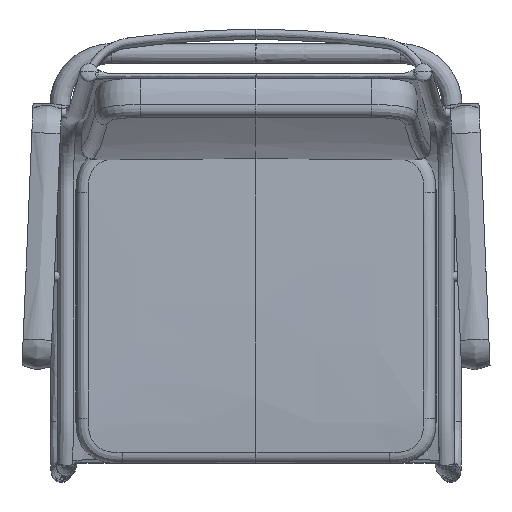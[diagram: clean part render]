
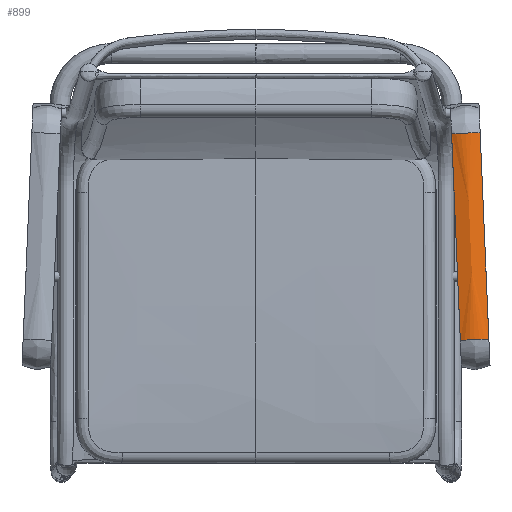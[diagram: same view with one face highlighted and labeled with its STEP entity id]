
A CAD part, top view. The second image highlights one B-rep face of the part: STEP entity #899.
In plain terms, the highlighted free-form (B-spline) face has degree [3, 2] with [4, 3] control points.
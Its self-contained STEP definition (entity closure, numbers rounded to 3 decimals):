
#297=(
BOUNDED_CURVE()
B_SPLINE_CURVE(2,(#12326,#12327,#12328),.UNSPECIFIED.,.F.,.F.)
B_SPLINE_CURVE_WITH_KNOTS((3,3),(0.,37.482),.UNSPECIFIED.)
CURVE()
GEOMETRIC_REPRESENTATION_ITEM()
RATIONAL_B_SPLINE_CURVE((1.,0.882,1.))
REPRESENTATION_ITEM('')
);
#299=(
BOUNDED_CURVE()
B_SPLINE_CURVE(3,(#12340,#12341,#12342,#12343),.UNSPECIFIED.,.F.,.F.)
B_SPLINE_CURVE_WITH_KNOTS((4,4),(0.,260.717),.UNSPECIFIED.)
CURVE()
GEOMETRIC_REPRESENTATION_ITEM()
RATIONAL_B_SPLINE_CURVE((1.,1.,1.,1.))
REPRESENTATION_ITEM('')
);
#300=(
BOUNDED_CURVE()
B_SPLINE_CURVE(2,(#12344,#12345,#12346),.UNSPECIFIED.,.F.,.F.)
B_SPLINE_CURVE_WITH_KNOTS((3,3),(0.,37.482),.UNSPECIFIED.)
CURVE()
GEOMETRIC_REPRESENTATION_ITEM()
RATIONAL_B_SPLINE_CURVE((1.,0.882,1.))
REPRESENTATION_ITEM('')
);
#301=(
BOUNDED_CURVE()
B_SPLINE_CURVE(3,(#12347,#12348,#12349,#12350),.UNSPECIFIED.,.F.,.F.)
B_SPLINE_CURVE_WITH_KNOTS((4,4),(-260.717,0.),.UNSPECIFIED.)
CURVE()
GEOMETRIC_REPRESENTATION_ITEM()
RATIONAL_B_SPLINE_CURVE((1.,1.,1.,1.))
REPRESENTATION_ITEM('')
);
#659=(
BOUNDED_SURFACE()
B_SPLINE_SURFACE(3,2,((#11830,#11831,#11832),(#11833,#11834,#11835),(#11836,
#11837,#11838),(#11839,#11840,#11841)),.UNSPECIFIED.,.F.,.F.,.F.)
B_SPLINE_SURFACE_WITH_KNOTS((4,4),(3,3),(0.,260.717),(0.,37.482),
 .UNSPECIFIED.)
GEOMETRIC_REPRESENTATION_ITEM()
RATIONAL_B_SPLINE_SURFACE(((1.,0.882,1.),(1.,0.882,
1.),(1.,0.882,1.),(1.,0.882,1.)))
REPRESENTATION_ITEM('')
SURFACE()
);
#899=ADVANCED_FACE('',(#1213),#659,.T.);
#1213=FACE_OUTER_BOUND('',#1530,.T.);
#1530=EDGE_LOOP('',(#2227,#2228,#2229,#2230));
#2227=ORIENTED_EDGE('',*,*,#3426,.T.);
#2228=ORIENTED_EDGE('',*,*,#3427,.T.);
#2229=ORIENTED_EDGE('',*,*,#3428,.T.);
#2230=ORIENTED_EDGE('',*,*,#3424,.F.);
#3424=EDGE_CURVE('',#4385,#4386,#297,.T.);
#3426=EDGE_CURVE('',#4385,#4387,#299,.T.);
#3427=EDGE_CURVE('',#4387,#4388,#300,.T.);
#3428=EDGE_CURVE('',#4388,#4386,#301,.T.);
#4385=VERTEX_POINT('',#12098);
#4386=VERTEX_POINT('',#12099);
#4387=VERTEX_POINT('',#12100);
#4388=VERTEX_POINT('',#12101);
#11830=CARTESIAN_POINT('',(293.384,-93.974,659.454));
#11831=CARTESIAN_POINT('',(275.382,-94.317,669.045));
#11832=CARTESIAN_POINT('',(257.416,-95.496,659.454));
#11833=CARTESIAN_POINT('',(289.712,-7.228,655.67));
#11834=CARTESIAN_POINT('',(271.711,-7.572,665.261));
#11835=CARTESIAN_POINT('',(253.744,-8.75,655.67));
#11836=CARTESIAN_POINT('',(286.041,79.518,651.885));
#11837=CARTESIAN_POINT('',(268.039,79.174,661.476));
#11838=CARTESIAN_POINT('',(250.073,77.995,651.885));
#11839=CARTESIAN_POINT('',(282.369,166.263,648.101));
#11840=CARTESIAN_POINT('',(264.367,165.92,657.691));
#11841=CARTESIAN_POINT('',(246.401,164.741,648.101));
#12098=CARTESIAN_POINT('',(293.384,-93.974,659.454));
#12099=CARTESIAN_POINT('',(257.416,-95.496,659.454));
#12100=CARTESIAN_POINT('',(282.369,166.263,648.101));
#12101=CARTESIAN_POINT('',(246.401,164.741,648.101));
#12326=CARTESIAN_POINT('',(293.384,-93.974,659.454));
#12327=CARTESIAN_POINT('',(275.382,-94.317,669.045));
#12328=CARTESIAN_POINT('',(257.416,-95.496,659.454));
#12340=CARTESIAN_POINT('',(293.384,-93.974,659.454));
#12341=CARTESIAN_POINT('',(289.712,-7.228,655.67));
#12342=CARTESIAN_POINT('',(286.041,79.518,651.885));
#12343=CARTESIAN_POINT('',(282.369,166.263,648.101));
#12344=CARTESIAN_POINT('',(282.369,166.263,648.101));
#12345=CARTESIAN_POINT('',(264.367,165.92,657.691));
#12346=CARTESIAN_POINT('',(246.401,164.741,648.101));
#12347=CARTESIAN_POINT('',(246.401,164.741,648.101));
#12348=CARTESIAN_POINT('',(250.073,77.995,651.885));
#12349=CARTESIAN_POINT('',(253.744,-8.75,655.67));
#12350=CARTESIAN_POINT('',(257.416,-95.496,659.454));
